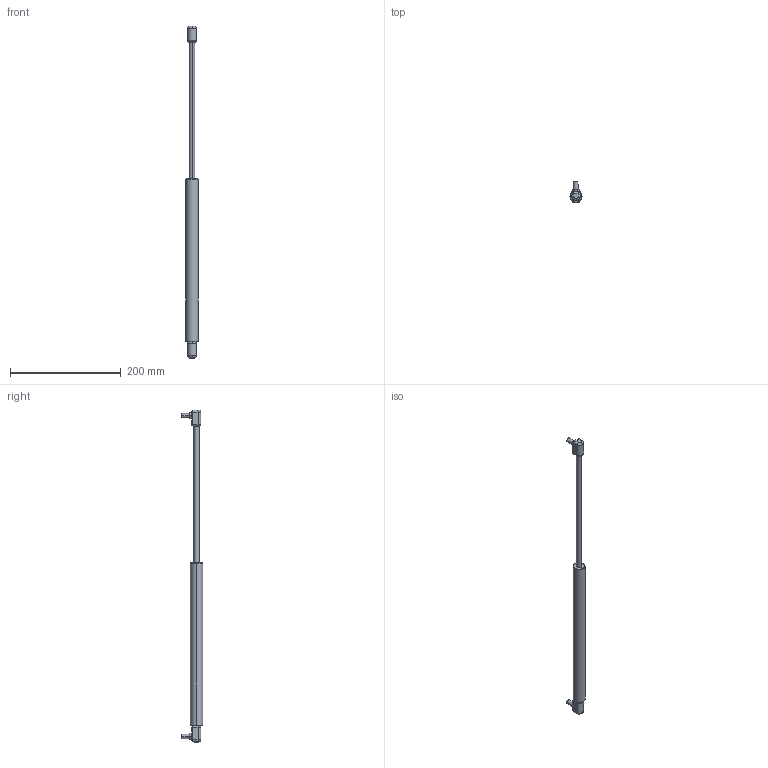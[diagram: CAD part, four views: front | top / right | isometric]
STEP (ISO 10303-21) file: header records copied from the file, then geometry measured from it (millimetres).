
FILE_DESCRIPTION (( 'STEP AP214' ), '1' );
FILE_NAME ('2.8012 10_22 250mm 250N.STEP', '2024-06-27T10:33:04', ( '' ), ( '' ), 'SwSTEP 2.0', 'SolidWorks 2024', '' );
FILE_SCHEMA (( 'AUTOMOTIVE_DESIGN' ));
Length unit declared in the file: millimetre
Products named in the file (4): 10_22 Runko; Päätykiinnike M8; 10_22 Mäntä; 2.8012 10_22 250mm 250N
Assembly tree (4 placements, depth 2):
  2.8012 10_22 250mm 250N
    10_22 Runko
    10_22 Mäntä
    Päätykiinnike M8  x2
Bounding box: 22 x 38.56 x 600.6 mm (x, y, z)
Volume: 127200 mm3; surface area: 44808.6 mm2
Topology: 4 solids, 4 shells, 115 faces, 254 edges, 142 vertices
Faces by surface type: cylinder 48, plane 35, torus 12, cone 12, bspline 8
Entity records: 2377 total; most frequent: CARTESIAN_POINT 592, DIRECTION 324, ORIENTED_EDGE 288, EDGE_CURVE 144, AXIS2_PLACEMENT_3D 129, VERTEX_POINT 85, EDGE_LOOP 75, ADVANCED_FACE 70
